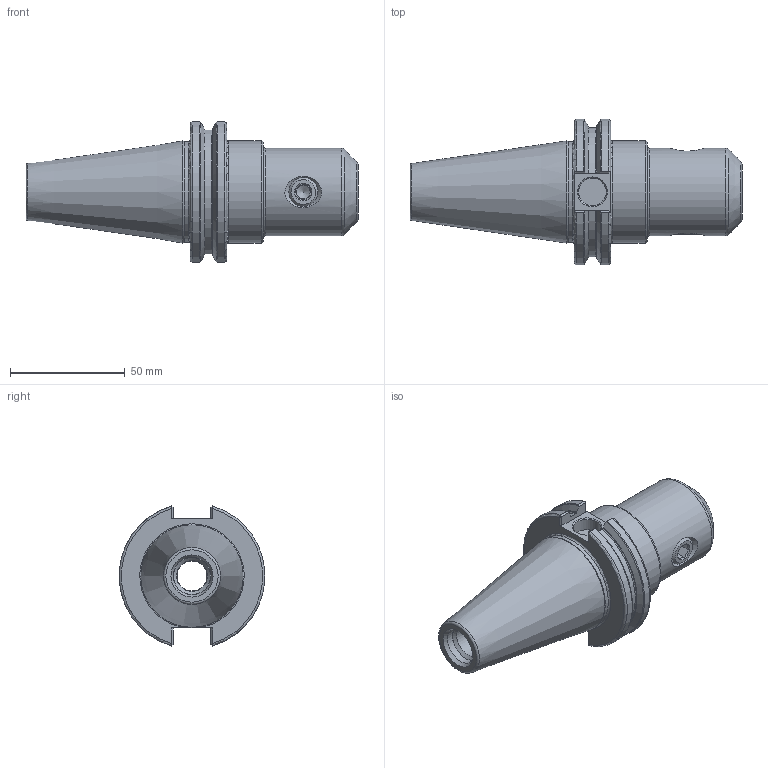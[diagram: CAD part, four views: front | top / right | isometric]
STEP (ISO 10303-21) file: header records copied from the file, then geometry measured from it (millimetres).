
FILE_DESCRIPTION(/* description */ (''),/* implementation_level */ '2;1');
FILE_NAME(/* name */ 'I:\00.2022最新版图纸\SLA---侧固式铣刀柄\侧固刀柄三维模型\CAT40-SLA15.875-76.2.stp',/* time_stamp */ '2022-07-20T10:42:10+08:00',/* author */ ('Administrator'),/* organization */ (''),/* preprocessor_version */ 'ST-DEVELOPER v18.1',/* originating_system */ 'Autodesk Inventor 2022',/* authorisation */ '');
FILE_SCHEMA (('AUTOMOTIVE_DESIGN { 1 0 10303 214 3 1 1 }'));
Length unit declared in the file: millimetre
Products named in the file (3): CAT40-SLA15.875-76; CAT40-SLA15.875-76.2; 1-2-20UNF-11.1125
Assembly tree (2 placements, depth 2):
  CAT40-SLA15.875-76
    CAT40-SLA15.875-76.2
    1-2-20UNF-11.1125
Bounding box: 144.45 x 63.27 x 60.92 mm (x, y, z)
Volume: 154715.6 mm3; surface area: 30955.3 mm2
Topology: 2 solids, 2 shells, 120 faces, 305 edges, 194 vertices
Faces by surface type: plane 44, cylinder 20, torus 20, cone 19, bspline 16, sphere 1
Full cylindrical faces by diameter (mm): 5 x1, 6 x1, 11.328 x1, 12 x1, 12.7 x1, 13 x1, 13.2 x1, 13.5 x1, 15.875 x1, 16.281 x1, 17 x1, 38.1 x1, 43.85 x1, 44.45 x1
Entity records: 4551 total; most frequent: CARTESIAN_POINT 1690, ORIENTED_EDGE 606, DIRECTION 537, EDGE_CURVE 303, AXIS2_PLACEMENT_3D 204, VERTEX_POINT 194, EDGE_LOOP 131, LINE 129
